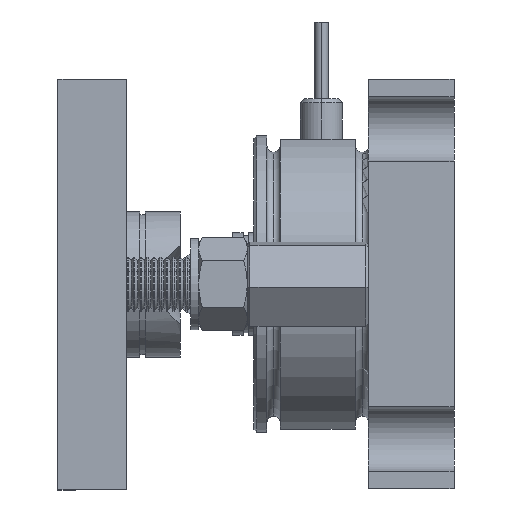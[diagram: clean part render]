
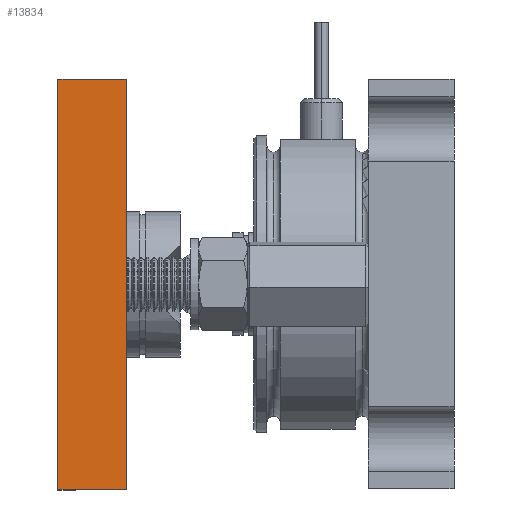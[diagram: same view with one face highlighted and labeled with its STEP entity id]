
A CAD part, left-side view. The second image highlights one B-rep face of the part: STEP entity #13834.
In plain terms, the highlighted planar face has unit normal (-1, 0, 0).
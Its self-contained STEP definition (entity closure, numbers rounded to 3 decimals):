
#89 = ORIENTED_EDGE ( 'NONE', *, *, #7216, .T. ) ;
#297 = VECTOR ( 'NONE', #9442, 1000. ) ;
#317 = VECTOR ( 'NONE', #4402, 1000. ) ;
#702 = ORIENTED_EDGE ( 'NONE', *, *, #16149, .F. ) ;
#1403 = PLANE ( 'NONE',  #5349 ) ;
#2067 = CARTESIAN_POINT ( 'NONE',  ( -122.5, 0., 76.2 ) ) ;
#2143 = EDGE_CURVE ( 'NONE', #3981, #18676, #6725, .T. ) ;
#3981 = VERTEX_POINT ( 'NONE', #8359 ) ;
#4402 = DIRECTION ( 'NONE',  ( 0., 0., 1. ) ) ;
#5349 = AXIS2_PLACEMENT_3D ( 'NONE', #17276, #11751, #10306 ) ;
#6725 = LINE ( 'NONE', #16782, #297 ) ;
#7009 = VERTEX_POINT ( 'NONE', #11056 ) ;
#7216 = EDGE_CURVE ( 'NONE', #3981, #7009, #10470, .T. ) ;
#7494 = CARTESIAN_POINT ( 'NONE',  ( -122.5, 25.4, 76.2 ) ) ;
#7983 = VECTOR ( 'NONE', #13162, 1000. ) ;
#8248 = CARTESIAN_POINT ( 'NONE',  ( -122.5, 25.4, 76.2 ) ) ;
#8359 = CARTESIAN_POINT ( 'NONE',  ( -122.5, 25.4, -76.2 ) ) ;
#8521 = DIRECTION ( 'NONE',  ( 0., -1., 0. ) ) ;
#9138 = CARTESIAN_POINT ( 'NONE',  ( -122.5, 0., -76.2 ) ) ;
#9442 = DIRECTION ( 'NONE',  ( 0., 0., 1. ) ) ;
#10306 = DIRECTION ( 'NONE',  ( 0., 0., -1. ) ) ;
#10470 = LINE ( 'NONE', #11809, #7983 ) ;
#10749 = VECTOR ( 'NONE', #8521, 1000. ) ;
#10849 = EDGE_CURVE ( 'NONE', #7009, #16039, #17262, .T. ) ;
#11056 = CARTESIAN_POINT ( 'NONE',  ( -122.5, 0., -76.2 ) ) ;
#11598 = LINE ( 'NONE', #8248, #10749 ) ;
#11751 = DIRECTION ( 'NONE',  ( 1., 0., 0. ) ) ;
#11809 = CARTESIAN_POINT ( 'NONE',  ( -122.5, 25.4, -76.2 ) ) ;
#13067 = EDGE_LOOP ( 'NONE', ( #14415, #702, #18876, #89 ) ) ;
#13162 = DIRECTION ( 'NONE',  ( 0., -1., 0. ) ) ;
#13834 = ADVANCED_FACE ( 'NONE', ( #18918 ), #1403, .F. ) ;
#14415 = ORIENTED_EDGE ( 'NONE', *, *, #10849, .T. ) ;
#16039 = VERTEX_POINT ( 'NONE', #2067 ) ;
#16149 = EDGE_CURVE ( 'NONE', #18676, #16039, #11598, .T. ) ;
#16782 = CARTESIAN_POINT ( 'NONE',  ( -122.5, 25.4, -76.2 ) ) ;
#17262 = LINE ( 'NONE', #9138, #317 ) ;
#17276 = CARTESIAN_POINT ( 'NONE',  ( -122.5, 25.4, -76.2 ) ) ;
#18676 = VERTEX_POINT ( 'NONE', #7494 ) ;
#18876 = ORIENTED_EDGE ( 'NONE', *, *, #2143, .F. ) ;
#18918 = FACE_OUTER_BOUND ( 'NONE', #13067, .T. ) ;
